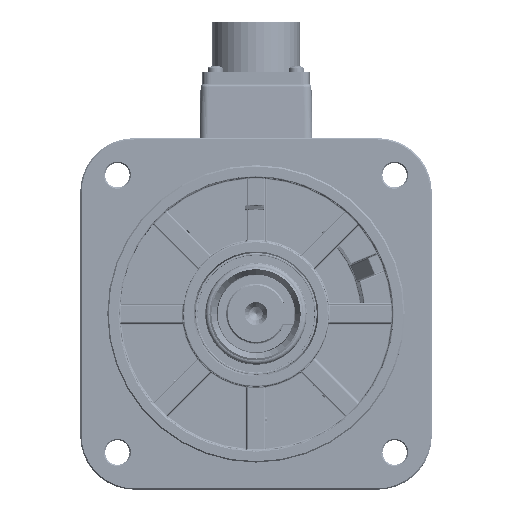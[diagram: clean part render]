
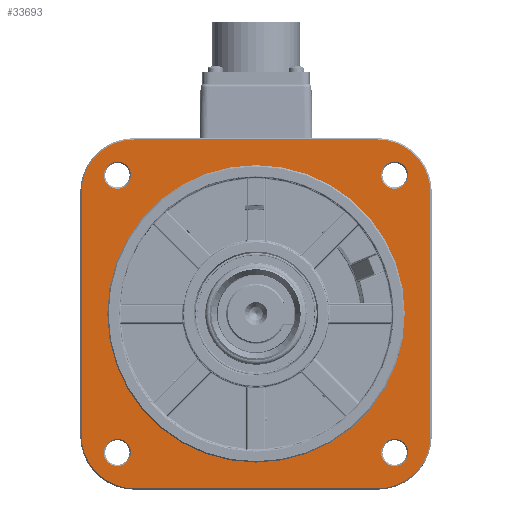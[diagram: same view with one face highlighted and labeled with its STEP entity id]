
A CAD part, top view. The second image highlights one B-rep face of the part: STEP entity #33693.
In plain terms, the highlighted planar face has unit normal (0, 0, 1).
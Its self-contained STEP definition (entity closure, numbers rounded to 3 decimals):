
#2078 = CARTESIAN_POINT ( 'NONE',  ( -45., -45., -5. ) ) ;
#3373 = ORIENTED_EDGE ( 'NONE', *, *, #366040, .F. ) ;
#17402 = CIRCLE ( 'NONE', #230362, 19.5 ) ;
#18814 = EDGE_LOOP ( 'NONE', ( #30636 ) ) ;
#30636 = ORIENTED_EDGE ( 'NONE', *, *, #86099, .F. ) ;
#33693 = ADVANCED_FACE ( 'NONE', ( #170977, #338708, #254896, #77684, #83293, #49089 ), #230031, .T. ) ;
#34814 = DIRECTION ( 'NONE',  ( 0., 0., 1. ) ) ;
#38605 = CARTESIAN_POINT ( 'NONE',  ( 0., 0., -5. ) ) ;
#39918 = CIRCLE ( 'NONE', #313526, 5. ) ;
#41659 = VERTEX_POINT ( 'NONE', #119324 ) ;
#41784 = DIRECTION ( 'NONE',  ( -1., 0., 0. ) ) ;
#41856 = ORIENTED_EDGE ( 'NONE', *, *, #150454, .F. ) ;
#43904 = CIRCLE ( 'NONE', #202173, 5. ) ;
#47080 = ORIENTED_EDGE ( 'NONE', *, *, #205385, .F. ) ;
#48940 = ORIENTED_EDGE ( 'NONE', *, *, #77939, .F. ) ;
#49089 = FACE_BOUND ( 'NONE', #18814, .T. ) ;
#52741 = EDGE_LOOP ( 'NONE', ( #41856 ) ) ;
#53396 = EDGE_CURVE ( 'NONE', #312763, #68873, #236161, .T. ) ;
#54506 = VERTEX_POINT ( 'NONE', #283226 ) ;
#54719 = DIRECTION ( 'NONE',  ( 1., 0., 0. ) ) ;
#64500 = DIRECTION ( 'NONE',  ( 1., 0., 0. ) ) ;
#64793 = VERTEX_POINT ( 'NONE', #357144 ) ;
#68506 = CARTESIAN_POINT ( 'NONE',  ( 45., -64.5, -5. ) ) ;
#68873 = VERTEX_POINT ( 'NONE', #103201 ) ;
#74412 = LINE ( 'NONE', #97368, #220297 ) ;
#75011 = CARTESIAN_POINT ( 'NONE',  ( 64.5, -45., -5. ) ) ;
#77684 = FACE_BOUND ( 'NONE', #291550, .T. ) ;
#77939 = EDGE_CURVE ( 'NONE', #80150, #64793, #17402, .T. ) ;
#80150 = VERTEX_POINT ( 'NONE', #309710 ) ;
#83293 = FACE_BOUND ( 'NONE', #120151, .T. ) ;
#86099 = EDGE_CURVE ( 'NONE', #199241, #199241, #283644, .T. ) ;
#90440 = CIRCLE ( 'NONE', #236306, 5. ) ;
#92118 = EDGE_LOOP ( 'NONE', ( #3373, #266473, #184329, #158889, #362578, #274804, #47080, #48940 ) ) ;
#97368 = CARTESIAN_POINT ( 'NONE',  ( 64.5, -45., -5. ) ) ;
#103201 = CARTESIAN_POINT ( 'NONE',  ( 64.5, 45., -5. ) ) ;
#105396 = VERTEX_POINT ( 'NONE', #124473 ) ;
#106408 = CARTESIAN_POINT ( 'NONE',  ( -51.265, -51.265, -5. ) ) ;
#106720 = AXIS2_PLACEMENT_3D ( 'NONE', #267121, #242281, #211831 ) ;
#107570 = ORIENTED_EDGE ( 'NONE', *, *, #225142, .F. ) ;
#107892 = DIRECTION ( 'NONE',  ( 0., 0., -1. ) ) ;
#109412 = CARTESIAN_POINT ( 'NONE',  ( 51.265, 51.265, -5. ) ) ;
#110986 = CARTESIAN_POINT ( 'NONE',  ( -51.265, 51.265, -5. ) ) ;
#115155 = VECTOR ( 'NONE', #219277, 1000. ) ;
#119324 = CARTESIAN_POINT ( 'NONE',  ( -45., 64.5, -5. ) ) ;
#120151 = EDGE_LOOP ( 'NONE', ( #107570 ) ) ;
#123774 = LINE ( 'NONE', #68506, #227870 ) ;
#124473 = CARTESIAN_POINT ( 'NONE',  ( 45., -64.5, -5. ) ) ;
#133321 = VECTOR ( 'NONE', #64500, 1000. ) ;
#136168 = DIRECTION ( 'NONE',  ( 1., 0., 0. ) ) ;
#143366 = DIRECTION ( 'NONE',  ( 1., 0., 0. ) ) ;
#146905 = DIRECTION ( 'NONE',  ( 0., 0., -1. ) ) ;
#150454 = EDGE_CURVE ( 'NONE', #241989, #241989, #90440, .T. ) ;
#158108 = CARTESIAN_POINT ( 'NONE',  ( 56.265, 51.265, -5. ) ) ;
#158889 = ORIENTED_EDGE ( 'NONE', *, *, #53396, .F. ) ;
#162058 = LINE ( 'NONE', #245996, #115155 ) ;
#167398 = CARTESIAN_POINT ( 'NONE',  ( -64.5, 45., -5. ) ) ;
#168083 = VERTEX_POINT ( 'NONE', #167398 ) ;
#168805 = VERTEX_POINT ( 'NONE', #75011 ) ;
#169109 = DIRECTION ( 'NONE',  ( 1., 0., 0. ) ) ;
#170977 = FACE_OUTER_BOUND ( 'NONE', #92118, .T. ) ;
#174693 = CARTESIAN_POINT ( 'NONE',  ( 45., -45., -5. ) ) ;
#184329 = ORIENTED_EDGE ( 'NONE', *, *, #337315, .F. ) ;
#189987 = AXIS2_PLACEMENT_3D ( 'NONE', #174693, #351843, #54719 ) ;
#195796 = CARTESIAN_POINT ( 'NONE',  ( 0., 55., -5. ) ) ;
#196216 = DIRECTION ( 'NONE',  ( 1., 0., 0. ) ) ;
#199241 = VERTEX_POINT ( 'NONE', #286924 ) ;
#202173 = AXIS2_PLACEMENT_3D ( 'NONE', #106408, #249433, #365647 ) ;
#204461 = EDGE_CURVE ( 'NONE', #218565, #218565, #333647, .T. ) ;
#205385 = EDGE_CURVE ( 'NONE', #64793, #168083, #162058, .T. ) ;
#205517 = LINE ( 'NONE', #209319, #133321 ) ;
#208497 = CIRCLE ( 'NONE', #189987, 19.5 ) ;
#209319 = CARTESIAN_POINT ( 'NONE',  ( 45., 64.5, -5. ) ) ;
#211831 = DIRECTION ( 'NONE',  ( 1., 0., 0. ) ) ;
#212280 = EDGE_CURVE ( 'NONE', #168805, #105396, #208497, .T. ) ;
#216212 = CIRCLE ( 'NONE', #106720, 19.5 ) ;
#218565 = VERTEX_POINT ( 'NONE', #361516 ) ;
#219277 = DIRECTION ( 'NONE',  ( 0., 1., 0. ) ) ;
#220297 = VECTOR ( 'NONE', #306892, 1000. ) ;
#221953 = DIRECTION ( 'NONE',  ( 0., 0., 1. ) ) ;
#224194 = AXIS2_PLACEMENT_3D ( 'NONE', #369016, #107892, #340387 ) ;
#225142 = EDGE_CURVE ( 'NONE', #54506, #54506, #43904, .T. ) ;
#227870 = VECTOR ( 'NONE', #41784, 1000. ) ;
#230031 = PLANE ( 'NONE',  #365143 ) ;
#230362 = AXIS2_PLACEMENT_3D ( 'NONE', #2078, #146905, #343247 ) ;
#236161 = CIRCLE ( 'NONE', #224194, 19.5 ) ;
#236306 = AXIS2_PLACEMENT_3D ( 'NONE', #109412, #221953, #136168 ) ;
#239685 = CARTESIAN_POINT ( 'NONE',  ( -46.265, 51.265, -5. ) ) ;
#241989 = VERTEX_POINT ( 'NONE', #158108 ) ;
#242281 = DIRECTION ( 'NONE',  ( 0., 0., -1. ) ) ;
#245996 = CARTESIAN_POINT ( 'NONE',  ( -64.5, -45., -5. ) ) ;
#248700 = EDGE_LOOP ( 'NONE', ( #328784 ) ) ;
#249433 = DIRECTION ( 'NONE',  ( 0., 0., 1. ) ) ;
#253449 = AXIS2_PLACEMENT_3D ( 'NONE', #38605, #34814, #322581 ) ;
#254801 = AXIS2_PLACEMENT_3D ( 'NONE', #283862, #312464, #196216 ) ;
#254896 = FACE_BOUND ( 'NONE', #52741, .T. ) ;
#256766 = DIRECTION ( 'NONE',  ( 0., 0., 1. ) ) ;
#266473 = ORIENTED_EDGE ( 'NONE', *, *, #212280, .F. ) ;
#267121 = CARTESIAN_POINT ( 'NONE',  ( -45., 45., -5. ) ) ;
#274804 = ORIENTED_EDGE ( 'NONE', *, *, #344507, .F. ) ;
#283226 = CARTESIAN_POINT ( 'NONE',  ( -46.265, -51.265, -5. ) ) ;
#283644 = CIRCLE ( 'NONE', #253449, 55. ) ;
#283862 = CARTESIAN_POINT ( 'NONE',  ( 51.265, -51.265, -5. ) ) ;
#286924 = CARTESIAN_POINT ( 'NONE',  ( 55., 0., -5. ) ) ;
#291550 = EDGE_LOOP ( 'NONE', ( #348667 ) ) ;
#306892 = DIRECTION ( 'NONE',  ( 0., -1., 0. ) ) ;
#309710 = CARTESIAN_POINT ( 'NONE',  ( -45., -64.5, -5. ) ) ;
#311122 = EDGE_CURVE ( 'NONE', #41659, #312763, #205517, .T. ) ;
#312464 = DIRECTION ( 'NONE',  ( 0., 0., 1. ) ) ;
#312763 = VERTEX_POINT ( 'NONE', #335909 ) ;
#313526 = AXIS2_PLACEMENT_3D ( 'NONE', #110986, #316756, #143366 ) ;
#316756 = DIRECTION ( 'NONE',  ( 0., 0., 1. ) ) ;
#322581 = DIRECTION ( 'NONE',  ( 1., 0., 0. ) ) ;
#328784 = ORIENTED_EDGE ( 'NONE', *, *, #367023, .F. ) ;
#333647 = CIRCLE ( 'NONE', #254801, 5. ) ;
#335909 = CARTESIAN_POINT ( 'NONE',  ( 45., 64.5, -5. ) ) ;
#337315 = EDGE_CURVE ( 'NONE', #68873, #168805, #74412, .T. ) ;
#338708 = FACE_BOUND ( 'NONE', #248700, .T. ) ;
#340387 = DIRECTION ( 'NONE',  ( 1., 0., 0. ) ) ;
#343247 = DIRECTION ( 'NONE',  ( 1., 0., 0. ) ) ;
#344507 = EDGE_CURVE ( 'NONE', #168083, #41659, #216212, .T. ) ;
#348667 = ORIENTED_EDGE ( 'NONE', *, *, #204461, .F. ) ;
#350249 = VERTEX_POINT ( 'NONE', #239685 ) ;
#351843 = DIRECTION ( 'NONE',  ( 0., 0., -1. ) ) ;
#357144 = CARTESIAN_POINT ( 'NONE',  ( -64.5, -45., -5. ) ) ;
#361516 = CARTESIAN_POINT ( 'NONE',  ( 56.265, -51.265, -5. ) ) ;
#362578 = ORIENTED_EDGE ( 'NONE', *, *, #311122, .F. ) ;
#365143 = AXIS2_PLACEMENT_3D ( 'NONE', #195796, #256766, #169109 ) ;
#365647 = DIRECTION ( 'NONE',  ( 1., 0., 0. ) ) ;
#366040 = EDGE_CURVE ( 'NONE', #105396, #80150, #123774, .T. ) ;
#367023 = EDGE_CURVE ( 'NONE', #350249, #350249, #39918, .T. ) ;
#369016 = CARTESIAN_POINT ( 'NONE',  ( 45., 45., -5. ) ) ;
